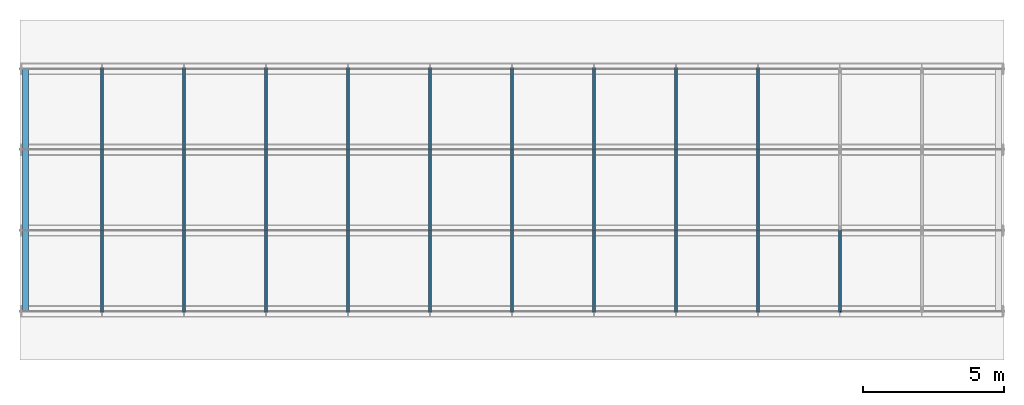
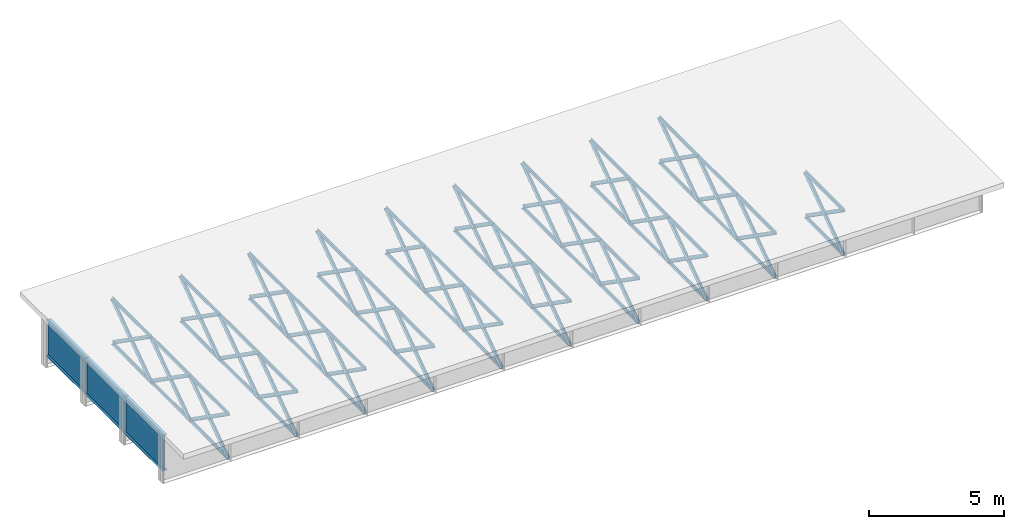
# One storey, part 1 of 13: 115 members.
"""IFC4 building model written with IfcOpenShell, lengths in metres."""

from ifc_helpers import new_model, si_unit, frame, origin, origin_with_axes, origin_2d_with_axis, place, context, subcontext, project, spatial, i_section, l_section, extrude, element, save


model = new_model("IFC4")

# Units and contexts
model_context = context("Model", 3, precision=1e-05, world=origin())
body_context = subcontext(model_context, "Body", "Model", "MODEL_VIEW")
ifc_project = project(units=[si_unit("LENGTHUNIT", "METRE"), si_unit("AREAUNIT", "SQUARE_METRE"), si_unit("VOLUMEUNIT", "CUBIC_METRE"), si_unit("PLANEANGLEUNIT", "RADIAN")], contexts=[model_context])

# Site, building, storey
site_placement = place(None, origin_with_axes())
site = spatial("IfcSite", under=ifc_project, at=site_placement, Name="Default Site")
building_placement = place(site_placement, origin_with_axes())
building = spatial("IfcBuilding", under=site, at=building_placement, Name="Bridge Structure")
storey_placement = place(building_placement, origin_with_axes())
storey = spatial("IfcBuildingStorey", under=building, at=storey_placement, Name="Superstructure")

# Members
for number, where, z_axis, x_axis, name in (
    (1, (0.2, -4.3125, 0.2015), (0.0, 1.0, 0.0), (-1.0, 0.0, 0.0), "End Diaphragm"),
    (2, (0.2, -1.4375, 0.2015), (0.0, 1.0, 0.0), (-1.0, 0.0, 0.0), "End Diaphragm"),
    (3, (0.2, 1.4375, 0.2015), (0.0, 1.0, 0.0), (-1.0, 0.0, 0.0), "End Diaphragm"),
):
    element("IfcMember", number, at=place(storey_placement, frame(where, z_axis=z_axis, x_axis=x_axis)), inside=storey, Name=name, context=body_context, shape_type="SweptSolid", body=[
        extrude(i_section(OverallWidth=0.21, OverallDepth=1.609, WebThickness=0.014, FlangeThickness=0.012, at=origin_2d_with_axis()), origin_with_axes(), (0.0, 0.0, 1.0), 2.875),
    ])
for number, where, z_axis, x_axis, name in (
    (4, (2.9166666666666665, -4.3125, 1.006), (0.0, 0.8192988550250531, -0.5733667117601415), (-1.0, 0.0, 0.0), "Diagonal Brace"),
    (5, (2.9166666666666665, -4.3125, -1.006), (0.0, 0.8192988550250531, 0.5733667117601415), (-1.0, 0.0, 0.0), "Diagonal Brace"),
):
    element("IfcMember", number, at=place(storey_placement, frame(where, z_axis=z_axis, x_axis=x_axis)), inside=storey, Name=name, context=body_context, shape_type="SweptSolid", body=[
        extrude(l_section(Depth=0.15, Width=0.1, Thickness=0.008, at=origin_2d_with_axis()), origin_with_axes(), (0.0, 0.0, 1.0), 3.5090980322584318),
    ])
for number, where, z_axis, x_axis, name in (
    (6, (2.9166666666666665, -4.3125, -1.006), (0.0, 1.0, 0.0), (-1.0, 0.0, 0.0), "Bottom Chord"),
    (7, (2.9166666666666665, -4.3125, 1.006), (0.0, 1.0, 0.0), (-1.0, 0.0, 0.0), "Top Chord"),
):
    element("IfcMember", number, at=place(storey_placement, frame(where, z_axis=z_axis, x_axis=x_axis)), inside=storey, Name=name, context=body_context, shape_type="SweptSolid", body=[
        extrude(l_section(Depth=0.13, Width=0.08, Thickness=0.008, at=origin_2d_with_axis()), origin_with_axes(), (0.0, 0.0, 1.0), 2.875),
    ])
for number, where, z_axis, x_axis, name in (
    (8, (2.9166666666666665, -1.4375, 1.006), (0.0, 0.8192988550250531, -0.5733667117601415), (-1.0, 0.0, 0.0), "Diagonal Brace"),
    (9, (2.9166666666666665, -1.4375, -1.006), (0.0, 0.8192988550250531, 0.5733667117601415), (-1.0, 0.0, 0.0), "Diagonal Brace"),
):
    element("IfcMember", number, at=place(storey_placement, frame(where, z_axis=z_axis, x_axis=x_axis)), inside=storey, Name=name, context=body_context, shape_type="SweptSolid", body=[
        extrude(l_section(Depth=0.15, Width=0.1, Thickness=0.008, at=origin_2d_with_axis()), origin_with_axes(), (0.0, 0.0, 1.0), 3.5090980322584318),
    ])
for number, where, z_axis, x_axis, name in (
    (10, (2.9166666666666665, -1.4375, -1.006), (0.0, 1.0, 0.0), (-1.0, 0.0, 0.0), "Bottom Chord"),
    (11, (2.9166666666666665, -1.4375, 1.006), (0.0, 1.0, 0.0), (-1.0, 0.0, 0.0), "Top Chord"),
):
    element("IfcMember", number, at=place(storey_placement, frame(where, z_axis=z_axis, x_axis=x_axis)), inside=storey, Name=name, context=body_context, shape_type="SweptSolid", body=[
        extrude(l_section(Depth=0.13, Width=0.08, Thickness=0.008, at=origin_2d_with_axis()), origin_with_axes(), (0.0, 0.0, 1.0), 2.875),
    ])
for number, where, z_axis, x_axis, name in (
    (12, (2.9166666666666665, 1.4375, 1.006), (0.0, 0.8192988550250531, -0.5733667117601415), (-1.0, 0.0, 0.0), "Diagonal Brace"),
    (13, (2.9166666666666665, 1.4375, -1.006), (0.0, 0.8192988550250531, 0.5733667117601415), (-1.0, 0.0, 0.0), "Diagonal Brace"),
):
    element("IfcMember", number, at=place(storey_placement, frame(where, z_axis=z_axis, x_axis=x_axis)), inside=storey, Name=name, context=body_context, shape_type="SweptSolid", body=[
        extrude(l_section(Depth=0.15, Width=0.1, Thickness=0.008, at=origin_2d_with_axis()), origin_with_axes(), (0.0, 0.0, 1.0), 3.5090980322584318),
    ])
for number, where, z_axis, x_axis, name in (
    (14, (2.9166666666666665, 1.4375, -1.006), (0.0, 1.0, 0.0), (-1.0, 0.0, 0.0), "Bottom Chord"),
    (15, (2.9166666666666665, 1.4375, 1.006), (0.0, 1.0, 0.0), (-1.0, 0.0, 0.0), "Top Chord"),
):
    element("IfcMember", number, at=place(storey_placement, frame(where, z_axis=z_axis, x_axis=x_axis)), inside=storey, Name=name, context=body_context, shape_type="SweptSolid", body=[
        extrude(l_section(Depth=0.13, Width=0.08, Thickness=0.008, at=origin_2d_with_axis()), origin_with_axes(), (0.0, 0.0, 1.0), 2.875),
    ])
for number, where, z_axis, x_axis, name in (
    (16, (5.833333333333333, -4.3125, 1.006), (0.0, 0.8192988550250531, -0.5733667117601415), (-1.0, 0.0, 0.0), "Diagonal Brace"),
    (17, (5.833333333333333, -4.3125, -1.006), (0.0, 0.8192988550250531, 0.5733667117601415), (-1.0, 0.0, 0.0), "Diagonal Brace"),
):
    element("IfcMember", number, at=place(storey_placement, frame(where, z_axis=z_axis, x_axis=x_axis)), inside=storey, Name=name, context=body_context, shape_type="SweptSolid", body=[
        extrude(l_section(Depth=0.15, Width=0.1, Thickness=0.008, at=origin_2d_with_axis()), origin_with_axes(), (0.0, 0.0, 1.0), 3.5090980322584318),
    ])
for number, where, z_axis, x_axis, name in (
    (18, (5.833333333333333, -4.3125, -1.006), (0.0, 1.0, 0.0), (-1.0, 0.0, 0.0), "Bottom Chord"),
    (19, (5.833333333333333, -4.3125, 1.006), (0.0, 1.0, 0.0), (-1.0, 0.0, 0.0), "Top Chord"),
):
    element("IfcMember", number, at=place(storey_placement, frame(where, z_axis=z_axis, x_axis=x_axis)), inside=storey, Name=name, context=body_context, shape_type="SweptSolid", body=[
        extrude(l_section(Depth=0.13, Width=0.08, Thickness=0.008, at=origin_2d_with_axis()), origin_with_axes(), (0.0, 0.0, 1.0), 2.875),
    ])
for number, where, z_axis, x_axis, name in (
    (20, (5.833333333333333, -1.4375, 1.006), (0.0, 0.8192988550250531, -0.5733667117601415), (-1.0, 0.0, 0.0), "Diagonal Brace"),
    (21, (5.833333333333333, -1.4375, -1.006), (0.0, 0.8192988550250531, 0.5733667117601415), (-1.0, 0.0, 0.0), "Diagonal Brace"),
):
    element("IfcMember", number, at=place(storey_placement, frame(where, z_axis=z_axis, x_axis=x_axis)), inside=storey, Name=name, context=body_context, shape_type="SweptSolid", body=[
        extrude(l_section(Depth=0.15, Width=0.1, Thickness=0.008, at=origin_2d_with_axis()), origin_with_axes(), (0.0, 0.0, 1.0), 3.5090980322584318),
    ])
for number, where, z_axis, x_axis, name in (
    (22, (5.833333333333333, -1.4375, -1.006), (0.0, 1.0, 0.0), (-1.0, 0.0, 0.0), "Bottom Chord"),
    (23, (5.833333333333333, -1.4375, 1.006), (0.0, 1.0, 0.0), (-1.0, 0.0, 0.0), "Top Chord"),
):
    element("IfcMember", number, at=place(storey_placement, frame(where, z_axis=z_axis, x_axis=x_axis)), inside=storey, Name=name, context=body_context, shape_type="SweptSolid", body=[
        extrude(l_section(Depth=0.13, Width=0.08, Thickness=0.008, at=origin_2d_with_axis()), origin_with_axes(), (0.0, 0.0, 1.0), 2.875),
    ])
for number, where, z_axis, x_axis, name in (
    (24, (5.833333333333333, 1.4375, 1.006), (0.0, 0.8192988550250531, -0.5733667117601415), (-1.0, 0.0, 0.0), "Diagonal Brace"),
    (25, (5.833333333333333, 1.4375, -1.006), (0.0, 0.8192988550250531, 0.5733667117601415), (-1.0, 0.0, 0.0), "Diagonal Brace"),
):
    element("IfcMember", number, at=place(storey_placement, frame(where, z_axis=z_axis, x_axis=x_axis)), inside=storey, Name=name, context=body_context, shape_type="SweptSolid", body=[
        extrude(l_section(Depth=0.15, Width=0.1, Thickness=0.008, at=origin_2d_with_axis()), origin_with_axes(), (0.0, 0.0, 1.0), 3.5090980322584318),
    ])
for number, where, z_axis, x_axis, name in (
    (26, (5.833333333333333, 1.4375, -1.006), (0.0, 1.0, 0.0), (-1.0, 0.0, 0.0), "Bottom Chord"),
    (27, (5.833333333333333, 1.4375, 1.006), (0.0, 1.0, 0.0), (-1.0, 0.0, 0.0), "Top Chord"),
):
    element("IfcMember", number, at=place(storey_placement, frame(where, z_axis=z_axis, x_axis=x_axis)), inside=storey, Name=name, context=body_context, shape_type="SweptSolid", body=[
        extrude(l_section(Depth=0.13, Width=0.08, Thickness=0.008, at=origin_2d_with_axis()), origin_with_axes(), (0.0, 0.0, 1.0), 2.875),
    ])
for number, where, z_axis, x_axis, name in (
    (28, (8.75, -4.3125, 1.006), (0.0, 0.8192988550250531, -0.5733667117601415), (-1.0, 0.0, 0.0), "Diagonal Brace"),
    (29, (8.75, -4.3125, -1.006), (0.0, 0.8192988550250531, 0.5733667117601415), (-1.0, 0.0, 0.0), "Diagonal Brace"),
):
    element("IfcMember", number, at=place(storey_placement, frame(where, z_axis=z_axis, x_axis=x_axis)), inside=storey, Name=name, context=body_context, shape_type="SweptSolid", body=[
        extrude(l_section(Depth=0.15, Width=0.1, Thickness=0.008, at=origin_2d_with_axis()), origin_with_axes(), (0.0, 0.0, 1.0), 3.5090980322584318),
    ])
for number, where, z_axis, x_axis, name in (
    (30, (8.75, -4.3125, -1.006), (0.0, 1.0, 0.0), (-1.0, 0.0, 0.0), "Bottom Chord"),
    (31, (8.75, -4.3125, 1.006), (0.0, 1.0, 0.0), (-1.0, 0.0, 0.0), "Top Chord"),
):
    element("IfcMember", number, at=place(storey_placement, frame(where, z_axis=z_axis, x_axis=x_axis)), inside=storey, Name=name, context=body_context, shape_type="SweptSolid", body=[
        extrude(l_section(Depth=0.13, Width=0.08, Thickness=0.008, at=origin_2d_with_axis()), origin_with_axes(), (0.0, 0.0, 1.0), 2.875),
    ])
for number, where, z_axis, x_axis, name in (
    (32, (8.75, -1.4375, 1.006), (0.0, 0.8192988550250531, -0.5733667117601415), (-1.0, 0.0, 0.0), "Diagonal Brace"),
    (33, (8.75, -1.4375, -1.006), (0.0, 0.8192988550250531, 0.5733667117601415), (-1.0, 0.0, 0.0), "Diagonal Brace"),
):
    element("IfcMember", number, at=place(storey_placement, frame(where, z_axis=z_axis, x_axis=x_axis)), inside=storey, Name=name, context=body_context, shape_type="SweptSolid", body=[
        extrude(l_section(Depth=0.15, Width=0.1, Thickness=0.008, at=origin_2d_with_axis()), origin_with_axes(), (0.0, 0.0, 1.0), 3.5090980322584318),
    ])
for number, where, z_axis, x_axis, name in (
    (34, (8.75, -1.4375, -1.006), (0.0, 1.0, 0.0), (-1.0, 0.0, 0.0), "Bottom Chord"),
    (35, (8.75, -1.4375, 1.006), (0.0, 1.0, 0.0), (-1.0, 0.0, 0.0), "Top Chord"),
):
    element("IfcMember", number, at=place(storey_placement, frame(where, z_axis=z_axis, x_axis=x_axis)), inside=storey, Name=name, context=body_context, shape_type="SweptSolid", body=[
        extrude(l_section(Depth=0.13, Width=0.08, Thickness=0.008, at=origin_2d_with_axis()), origin_with_axes(), (0.0, 0.0, 1.0), 2.875),
    ])
for number, where, z_axis, x_axis, name in (
    (36, (8.75, 1.4375, 1.006), (0.0, 0.8192988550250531, -0.5733667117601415), (-1.0, 0.0, 0.0), "Diagonal Brace"),
    (37, (8.75, 1.4375, -1.006), (0.0, 0.8192988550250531, 0.5733667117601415), (-1.0, 0.0, 0.0), "Diagonal Brace"),
):
    element("IfcMember", number, at=place(storey_placement, frame(where, z_axis=z_axis, x_axis=x_axis)), inside=storey, Name=name, context=body_context, shape_type="SweptSolid", body=[
        extrude(l_section(Depth=0.15, Width=0.1, Thickness=0.008, at=origin_2d_with_axis()), origin_with_axes(), (0.0, 0.0, 1.0), 3.5090980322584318),
    ])
for number, where, z_axis, x_axis, name in (
    (38, (8.75, 1.4375, -1.006), (0.0, 1.0, 0.0), (-1.0, 0.0, 0.0), "Bottom Chord"),
    (39, (8.75, 1.4375, 1.006), (0.0, 1.0, 0.0), (-1.0, 0.0, 0.0), "Top Chord"),
):
    element("IfcMember", number, at=place(storey_placement, frame(where, z_axis=z_axis, x_axis=x_axis)), inside=storey, Name=name, context=body_context, shape_type="SweptSolid", body=[
        extrude(l_section(Depth=0.13, Width=0.08, Thickness=0.008, at=origin_2d_with_axis()), origin_with_axes(), (0.0, 0.0, 1.0), 2.875),
    ])
for number, where, z_axis, x_axis, name in (
    (40, (11.666666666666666, -4.3125, 1.006), (0.0, 0.8192988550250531, -0.5733667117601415), (-1.0, 0.0, 0.0), "Diagonal Brace"),
    (41, (11.666666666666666, -4.3125, -1.006), (0.0, 0.8192988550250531, 0.5733667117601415), (-1.0, 0.0, 0.0), "Diagonal Brace"),
):
    element("IfcMember", number, at=place(storey_placement, frame(where, z_axis=z_axis, x_axis=x_axis)), inside=storey, Name=name, context=body_context, shape_type="SweptSolid", body=[
        extrude(l_section(Depth=0.15, Width=0.1, Thickness=0.008, at=origin_2d_with_axis()), origin_with_axes(), (0.0, 0.0, 1.0), 3.5090980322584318),
    ])
for number, where, z_axis, x_axis, name in (
    (42, (11.666666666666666, -4.3125, -1.006), (0.0, 1.0, 0.0), (-1.0, 0.0, 0.0), "Bottom Chord"),
    (43, (11.666666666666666, -4.3125, 1.006), (0.0, 1.0, 0.0), (-1.0, 0.0, 0.0), "Top Chord"),
):
    element("IfcMember", number, at=place(storey_placement, frame(where, z_axis=z_axis, x_axis=x_axis)), inside=storey, Name=name, context=body_context, shape_type="SweptSolid", body=[
        extrude(l_section(Depth=0.13, Width=0.08, Thickness=0.008, at=origin_2d_with_axis()), origin_with_axes(), (0.0, 0.0, 1.0), 2.875),
    ])
for number, where, z_axis, x_axis, name in (
    (44, (11.666666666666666, -1.4375, 1.006), (0.0, 0.8192988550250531, -0.5733667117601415), (-1.0, 0.0, 0.0), "Diagonal Brace"),
    (45, (11.666666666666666, -1.4375, -1.006), (0.0, 0.8192988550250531, 0.5733667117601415), (-1.0, 0.0, 0.0), "Diagonal Brace"),
):
    element("IfcMember", number, at=place(storey_placement, frame(where, z_axis=z_axis, x_axis=x_axis)), inside=storey, Name=name, context=body_context, shape_type="SweptSolid", body=[
        extrude(l_section(Depth=0.15, Width=0.1, Thickness=0.008, at=origin_2d_with_axis()), origin_with_axes(), (0.0, 0.0, 1.0), 3.5090980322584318),
    ])
for number, where, z_axis, x_axis, name in (
    (46, (11.666666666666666, -1.4375, -1.006), (0.0, 1.0, 0.0), (-1.0, 0.0, 0.0), "Bottom Chord"),
    (47, (11.666666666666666, -1.4375, 1.006), (0.0, 1.0, 0.0), (-1.0, 0.0, 0.0), "Top Chord"),
):
    element("IfcMember", number, at=place(storey_placement, frame(where, z_axis=z_axis, x_axis=x_axis)), inside=storey, Name=name, context=body_context, shape_type="SweptSolid", body=[
        extrude(l_section(Depth=0.13, Width=0.08, Thickness=0.008, at=origin_2d_with_axis()), origin_with_axes(), (0.0, 0.0, 1.0), 2.875),
    ])
for number, where, z_axis, x_axis, name in (
    (48, (11.666666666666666, 1.4375, 1.006), (0.0, 0.8192988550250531, -0.5733667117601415), (-1.0, 0.0, 0.0), "Diagonal Brace"),
    (49, (11.666666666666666, 1.4375, -1.006), (0.0, 0.8192988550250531, 0.5733667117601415), (-1.0, 0.0, 0.0), "Diagonal Brace"),
):
    element("IfcMember", number, at=place(storey_placement, frame(where, z_axis=z_axis, x_axis=x_axis)), inside=storey, Name=name, context=body_context, shape_type="SweptSolid", body=[
        extrude(l_section(Depth=0.15, Width=0.1, Thickness=0.008, at=origin_2d_with_axis()), origin_with_axes(), (0.0, 0.0, 1.0), 3.5090980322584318),
    ])
for number, where, z_axis, x_axis, name in (
    (50, (11.666666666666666, 1.4375, -1.006), (0.0, 1.0, 0.0), (-1.0, 0.0, 0.0), "Bottom Chord"),
    (51, (11.666666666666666, 1.4375, 1.006), (0.0, 1.0, 0.0), (-1.0, 0.0, 0.0), "Top Chord"),
):
    element("IfcMember", number, at=place(storey_placement, frame(where, z_axis=z_axis, x_axis=x_axis)), inside=storey, Name=name, context=body_context, shape_type="SweptSolid", body=[
        extrude(l_section(Depth=0.13, Width=0.08, Thickness=0.008, at=origin_2d_with_axis()), origin_with_axes(), (0.0, 0.0, 1.0), 2.875),
    ])
for number, where, z_axis, x_axis, name in (
    (52, (14.583333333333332, -4.3125, 1.006), (0.0, 0.8192988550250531, -0.5733667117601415), (-1.0, 0.0, 0.0), "Diagonal Brace"),
    (53, (14.583333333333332, -4.3125, -1.006), (0.0, 0.8192988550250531, 0.5733667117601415), (-1.0, 0.0, 0.0), "Diagonal Brace"),
):
    element("IfcMember", number, at=place(storey_placement, frame(where, z_axis=z_axis, x_axis=x_axis)), inside=storey, Name=name, context=body_context, shape_type="SweptSolid", body=[
        extrude(l_section(Depth=0.15, Width=0.1, Thickness=0.008, at=origin_2d_with_axis()), origin_with_axes(), (0.0, 0.0, 1.0), 3.5090980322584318),
    ])
for number, where, z_axis, x_axis, name in (
    (54, (14.583333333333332, -4.3125, -1.006), (0.0, 1.0, 0.0), (-1.0, 0.0, 0.0), "Bottom Chord"),
    (55, (14.583333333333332, -4.3125, 1.006), (0.0, 1.0, 0.0), (-1.0, 0.0, 0.0), "Top Chord"),
):
    element("IfcMember", number, at=place(storey_placement, frame(where, z_axis=z_axis, x_axis=x_axis)), inside=storey, Name=name, context=body_context, shape_type="SweptSolid", body=[
        extrude(l_section(Depth=0.13, Width=0.08, Thickness=0.008, at=origin_2d_with_axis()), origin_with_axes(), (0.0, 0.0, 1.0), 2.875),
    ])
for number, where, z_axis, x_axis, name in (
    (56, (14.583333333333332, -1.4375, 1.006), (0.0, 0.8192988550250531, -0.5733667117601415), (-1.0, 0.0, 0.0), "Diagonal Brace"),
    (57, (14.583333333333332, -1.4375, -1.006), (0.0, 0.8192988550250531, 0.5733667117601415), (-1.0, 0.0, 0.0), "Diagonal Brace"),
):
    element("IfcMember", number, at=place(storey_placement, frame(where, z_axis=z_axis, x_axis=x_axis)), inside=storey, Name=name, context=body_context, shape_type="SweptSolid", body=[
        extrude(l_section(Depth=0.15, Width=0.1, Thickness=0.008, at=origin_2d_with_axis()), origin_with_axes(), (0.0, 0.0, 1.0), 3.5090980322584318),
    ])
for number, where, z_axis, x_axis, name in (
    (58, (14.583333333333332, -1.4375, -1.006), (0.0, 1.0, 0.0), (-1.0, 0.0, 0.0), "Bottom Chord"),
    (59, (14.583333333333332, -1.4375, 1.006), (0.0, 1.0, 0.0), (-1.0, 0.0, 0.0), "Top Chord"),
):
    element("IfcMember", number, at=place(storey_placement, frame(where, z_axis=z_axis, x_axis=x_axis)), inside=storey, Name=name, context=body_context, shape_type="SweptSolid", body=[
        extrude(l_section(Depth=0.13, Width=0.08, Thickness=0.008, at=origin_2d_with_axis()), origin_with_axes(), (0.0, 0.0, 1.0), 2.875),
    ])
for number, where, z_axis, x_axis, name in (
    (60, (14.583333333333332, 1.4375, 1.006), (0.0, 0.8192988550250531, -0.5733667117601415), (-1.0, 0.0, 0.0), "Diagonal Brace"),
    (61, (14.583333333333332, 1.4375, -1.006), (0.0, 0.8192988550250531, 0.5733667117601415), (-1.0, 0.0, 0.0), "Diagonal Brace"),
):
    element("IfcMember", number, at=place(storey_placement, frame(where, z_axis=z_axis, x_axis=x_axis)), inside=storey, Name=name, context=body_context, shape_type="SweptSolid", body=[
        extrude(l_section(Depth=0.15, Width=0.1, Thickness=0.008, at=origin_2d_with_axis()), origin_with_axes(), (0.0, 0.0, 1.0), 3.5090980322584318),
    ])
for number, where, z_axis, x_axis, name in (
    (62, (14.583333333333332, 1.4375, -1.006), (0.0, 1.0, 0.0), (-1.0, 0.0, 0.0), "Bottom Chord"),
    (63, (14.583333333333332, 1.4375, 1.006), (0.0, 1.0, 0.0), (-1.0, 0.0, 0.0), "Top Chord"),
):
    element("IfcMember", number, at=place(storey_placement, frame(where, z_axis=z_axis, x_axis=x_axis)), inside=storey, Name=name, context=body_context, shape_type="SweptSolid", body=[
        extrude(l_section(Depth=0.13, Width=0.08, Thickness=0.008, at=origin_2d_with_axis()), origin_with_axes(), (0.0, 0.0, 1.0), 2.875),
    ])
for number, where, z_axis, x_axis, name in (
    (64, (17.5, -4.3125, 1.006), (0.0, 0.8192988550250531, -0.5733667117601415), (-1.0, 0.0, 0.0), "Diagonal Brace"),
    (65, (17.5, -4.3125, -1.006), (0.0, 0.8192988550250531, 0.5733667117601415), (-1.0, 0.0, 0.0), "Diagonal Brace"),
):
    element("IfcMember", number, at=place(storey_placement, frame(where, z_axis=z_axis, x_axis=x_axis)), inside=storey, Name=name, context=body_context, shape_type="SweptSolid", body=[
        extrude(l_section(Depth=0.15, Width=0.1, Thickness=0.008, at=origin_2d_with_axis()), origin_with_axes(), (0.0, 0.0, 1.0), 3.5090980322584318),
    ])
for number, where, z_axis, x_axis, name in (
    (66, (17.5, -4.3125, -1.006), (0.0, 1.0, 0.0), (-1.0, 0.0, 0.0), "Bottom Chord"),
    (67, (17.5, -4.3125, 1.006), (0.0, 1.0, 0.0), (-1.0, 0.0, 0.0), "Top Chord"),
):
    element("IfcMember", number, at=place(storey_placement, frame(where, z_axis=z_axis, x_axis=x_axis)), inside=storey, Name=name, context=body_context, shape_type="SweptSolid", body=[
        extrude(l_section(Depth=0.13, Width=0.08, Thickness=0.008, at=origin_2d_with_axis()), origin_with_axes(), (0.0, 0.0, 1.0), 2.875),
    ])
for number, where, z_axis, x_axis, name in (
    (68, (17.5, -1.4375, 1.006), (0.0, 0.8192988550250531, -0.5733667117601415), (-1.0, 0.0, 0.0), "Diagonal Brace"),
    (69, (17.5, -1.4375, -1.006), (0.0, 0.8192988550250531, 0.5733667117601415), (-1.0, 0.0, 0.0), "Diagonal Brace"),
):
    element("IfcMember", number, at=place(storey_placement, frame(where, z_axis=z_axis, x_axis=x_axis)), inside=storey, Name=name, context=body_context, shape_type="SweptSolid", body=[
        extrude(l_section(Depth=0.15, Width=0.1, Thickness=0.008, at=origin_2d_with_axis()), origin_with_axes(), (0.0, 0.0, 1.0), 3.5090980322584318),
    ])
for number, where, z_axis, x_axis, name in (
    (70, (17.5, -1.4375, -1.006), (0.0, 1.0, 0.0), (-1.0, 0.0, 0.0), "Bottom Chord"),
    (71, (17.5, -1.4375, 1.006), (0.0, 1.0, 0.0), (-1.0, 0.0, 0.0), "Top Chord"),
):
    element("IfcMember", number, at=place(storey_placement, frame(where, z_axis=z_axis, x_axis=x_axis)), inside=storey, Name=name, context=body_context, shape_type="SweptSolid", body=[
        extrude(l_section(Depth=0.13, Width=0.08, Thickness=0.008, at=origin_2d_with_axis()), origin_with_axes(), (0.0, 0.0, 1.0), 2.875),
    ])
for number, where, z_axis, x_axis, name in (
    (72, (17.5, 1.4375, 1.006), (0.0, 0.8192988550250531, -0.5733667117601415), (-1.0, 0.0, 0.0), "Diagonal Brace"),
    (73, (17.5, 1.4375, -1.006), (0.0, 0.8192988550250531, 0.5733667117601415), (-1.0, 0.0, 0.0), "Diagonal Brace"),
):
    element("IfcMember", number, at=place(storey_placement, frame(where, z_axis=z_axis, x_axis=x_axis)), inside=storey, Name=name, context=body_context, shape_type="SweptSolid", body=[
        extrude(l_section(Depth=0.15, Width=0.1, Thickness=0.008, at=origin_2d_with_axis()), origin_with_axes(), (0.0, 0.0, 1.0), 3.5090980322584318),
    ])
for number, where, z_axis, x_axis, name in (
    (74, (17.5, 1.4375, -1.006), (0.0, 1.0, 0.0), (-1.0, 0.0, 0.0), "Bottom Chord"),
    (75, (17.5, 1.4375, 1.006), (0.0, 1.0, 0.0), (-1.0, 0.0, 0.0), "Top Chord"),
):
    element("IfcMember", number, at=place(storey_placement, frame(where, z_axis=z_axis, x_axis=x_axis)), inside=storey, Name=name, context=body_context, shape_type="SweptSolid", body=[
        extrude(l_section(Depth=0.13, Width=0.08, Thickness=0.008, at=origin_2d_with_axis()), origin_with_axes(), (0.0, 0.0, 1.0), 2.875),
    ])
for number, where, z_axis, x_axis, name in (
    (76, (20.416666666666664, -4.3125, 1.006), (0.0, 0.8192988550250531, -0.5733667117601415), (-1.0, 0.0, 0.0), "Diagonal Brace"),
    (77, (20.416666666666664, -4.3125, -1.006), (0.0, 0.8192988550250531, 0.5733667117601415), (-1.0, 0.0, 0.0), "Diagonal Brace"),
):
    element("IfcMember", number, at=place(storey_placement, frame(where, z_axis=z_axis, x_axis=x_axis)), inside=storey, Name=name, context=body_context, shape_type="SweptSolid", body=[
        extrude(l_section(Depth=0.15, Width=0.1, Thickness=0.008, at=origin_2d_with_axis()), origin_with_axes(), (0.0, 0.0, 1.0), 3.5090980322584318),
    ])
for number, where, z_axis, x_axis, name in (
    (78, (20.416666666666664, -4.3125, -1.006), (0.0, 1.0, 0.0), (-1.0, 0.0, 0.0), "Bottom Chord"),
    (79, (20.416666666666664, -4.3125, 1.006), (0.0, 1.0, 0.0), (-1.0, 0.0, 0.0), "Top Chord"),
):
    element("IfcMember", number, at=place(storey_placement, frame(where, z_axis=z_axis, x_axis=x_axis)), inside=storey, Name=name, context=body_context, shape_type="SweptSolid", body=[
        extrude(l_section(Depth=0.13, Width=0.08, Thickness=0.008, at=origin_2d_with_axis()), origin_with_axes(), (0.0, 0.0, 1.0), 2.875),
    ])
for number, where, z_axis, x_axis, name in (
    (80, (20.416666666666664, -1.4375, 1.006), (0.0, 0.8192988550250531, -0.5733667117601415), (-1.0, 0.0, 0.0), "Diagonal Brace"),
    (81, (20.416666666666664, -1.4375, -1.006), (0.0, 0.8192988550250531, 0.5733667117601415), (-1.0, 0.0, 0.0), "Diagonal Brace"),
):
    element("IfcMember", number, at=place(storey_placement, frame(where, z_axis=z_axis, x_axis=x_axis)), inside=storey, Name=name, context=body_context, shape_type="SweptSolid", body=[
        extrude(l_section(Depth=0.15, Width=0.1, Thickness=0.008, at=origin_2d_with_axis()), origin_with_axes(), (0.0, 0.0, 1.0), 3.5090980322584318),
    ])
for number, where, z_axis, x_axis, name in (
    (82, (20.416666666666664, -1.4375, -1.006), (0.0, 1.0, 0.0), (-1.0, 0.0, 0.0), "Bottom Chord"),
    (83, (20.416666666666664, -1.4375, 1.006), (0.0, 1.0, 0.0), (-1.0, 0.0, 0.0), "Top Chord"),
):
    element("IfcMember", number, at=place(storey_placement, frame(where, z_axis=z_axis, x_axis=x_axis)), inside=storey, Name=name, context=body_context, shape_type="SweptSolid", body=[
        extrude(l_section(Depth=0.13, Width=0.08, Thickness=0.008, at=origin_2d_with_axis()), origin_with_axes(), (0.0, 0.0, 1.0), 2.875),
    ])
for number, where, z_axis, x_axis, name in (
    (84, (20.416666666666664, 1.4375, 1.006), (0.0, 0.8192988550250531, -0.5733667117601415), (-1.0, 0.0, 0.0), "Diagonal Brace"),
    (85, (20.416666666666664, 1.4375, -1.006), (0.0, 0.8192988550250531, 0.5733667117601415), (-1.0, 0.0, 0.0), "Diagonal Brace"),
):
    element("IfcMember", number, at=place(storey_placement, frame(where, z_axis=z_axis, x_axis=x_axis)), inside=storey, Name=name, context=body_context, shape_type="SweptSolid", body=[
        extrude(l_section(Depth=0.15, Width=0.1, Thickness=0.008, at=origin_2d_with_axis()), origin_with_axes(), (0.0, 0.0, 1.0), 3.5090980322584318),
    ])
for number, where, z_axis, x_axis, name in (
    (86, (20.416666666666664, 1.4375, -1.006), (0.0, 1.0, 0.0), (-1.0, 0.0, 0.0), "Bottom Chord"),
    (87, (20.416666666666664, 1.4375, 1.006), (0.0, 1.0, 0.0), (-1.0, 0.0, 0.0), "Top Chord"),
):
    element("IfcMember", number, at=place(storey_placement, frame(where, z_axis=z_axis, x_axis=x_axis)), inside=storey, Name=name, context=body_context, shape_type="SweptSolid", body=[
        extrude(l_section(Depth=0.13, Width=0.08, Thickness=0.008, at=origin_2d_with_axis()), origin_with_axes(), (0.0, 0.0, 1.0), 2.875),
    ])
for number, where, z_axis, x_axis, name in (
    (88, (23.333333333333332, -4.3125, 1.006), (0.0, 0.8192988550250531, -0.5733667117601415), (-1.0, 0.0, 0.0), "Diagonal Brace"),
    (89, (23.333333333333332, -4.3125, -1.006), (0.0, 0.8192988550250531, 0.5733667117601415), (-1.0, 0.0, 0.0), "Diagonal Brace"),
):
    element("IfcMember", number, at=place(storey_placement, frame(where, z_axis=z_axis, x_axis=x_axis)), inside=storey, Name=name, context=body_context, shape_type="SweptSolid", body=[
        extrude(l_section(Depth=0.15, Width=0.1, Thickness=0.008, at=origin_2d_with_axis()), origin_with_axes(), (0.0, 0.0, 1.0), 3.5090980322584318),
    ])
for number, where, z_axis, x_axis, name in (
    (90, (23.333333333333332, -4.3125, -1.006), (0.0, 1.0, 0.0), (-1.0, 0.0, 0.0), "Bottom Chord"),
    (91, (23.333333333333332, -4.3125, 1.006), (0.0, 1.0, 0.0), (-1.0, 0.0, 0.0), "Top Chord"),
):
    element("IfcMember", number, at=place(storey_placement, frame(where, z_axis=z_axis, x_axis=x_axis)), inside=storey, Name=name, context=body_context, shape_type="SweptSolid", body=[
        extrude(l_section(Depth=0.13, Width=0.08, Thickness=0.008, at=origin_2d_with_axis()), origin_with_axes(), (0.0, 0.0, 1.0), 2.875),
    ])
for number, where, z_axis, x_axis, name in (
    (92, (23.333333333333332, -1.4375, 1.006), (0.0, 0.8192988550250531, -0.5733667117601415), (-1.0, 0.0, 0.0), "Diagonal Brace"),
    (93, (23.333333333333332, -1.4375, -1.006), (0.0, 0.8192988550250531, 0.5733667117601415), (-1.0, 0.0, 0.0), "Diagonal Brace"),
):
    element("IfcMember", number, at=place(storey_placement, frame(where, z_axis=z_axis, x_axis=x_axis)), inside=storey, Name=name, context=body_context, shape_type="SweptSolid", body=[
        extrude(l_section(Depth=0.15, Width=0.1, Thickness=0.008, at=origin_2d_with_axis()), origin_with_axes(), (0.0, 0.0, 1.0), 3.5090980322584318),
    ])
for number, where, z_axis, x_axis, name in (
    (94, (23.333333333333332, -1.4375, -1.006), (0.0, 1.0, 0.0), (-1.0, 0.0, 0.0), "Bottom Chord"),
    (95, (23.333333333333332, -1.4375, 1.006), (0.0, 1.0, 0.0), (-1.0, 0.0, 0.0), "Top Chord"),
):
    element("IfcMember", number, at=place(storey_placement, frame(where, z_axis=z_axis, x_axis=x_axis)), inside=storey, Name=name, context=body_context, shape_type="SweptSolid", body=[
        extrude(l_section(Depth=0.13, Width=0.08, Thickness=0.008, at=origin_2d_with_axis()), origin_with_axes(), (0.0, 0.0, 1.0), 2.875),
    ])
for number, where, z_axis, x_axis, name in (
    (96, (23.333333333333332, 1.4375, 1.006), (0.0, 0.8192988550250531, -0.5733667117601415), (-1.0, 0.0, 0.0), "Diagonal Brace"),
    (97, (23.333333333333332, 1.4375, -1.006), (0.0, 0.8192988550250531, 0.5733667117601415), (-1.0, 0.0, 0.0), "Diagonal Brace"),
):
    element("IfcMember", number, at=place(storey_placement, frame(where, z_axis=z_axis, x_axis=x_axis)), inside=storey, Name=name, context=body_context, shape_type="SweptSolid", body=[
        extrude(l_section(Depth=0.15, Width=0.1, Thickness=0.008, at=origin_2d_with_axis()), origin_with_axes(), (0.0, 0.0, 1.0), 3.5090980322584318),
    ])
for number, where, z_axis, x_axis, name in (
    (98, (23.333333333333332, 1.4375, -1.006), (0.0, 1.0, 0.0), (-1.0, 0.0, 0.0), "Bottom Chord"),
    (99, (23.333333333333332, 1.4375, 1.006), (0.0, 1.0, 0.0), (-1.0, 0.0, 0.0), "Top Chord"),
):
    element("IfcMember", number, at=place(storey_placement, frame(where, z_axis=z_axis, x_axis=x_axis)), inside=storey, Name=name, context=body_context, shape_type="SweptSolid", body=[
        extrude(l_section(Depth=0.13, Width=0.08, Thickness=0.008, at=origin_2d_with_axis()), origin_with_axes(), (0.0, 0.0, 1.0), 2.875),
    ])
for number, where, z_axis, x_axis, name in (
    (100, (26.25, -4.3125, 1.006), (0.0, 0.8192988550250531, -0.5733667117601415), (-1.0, 0.0, 0.0), "Diagonal Brace"),
    (101, (26.25, -4.3125, -1.006), (0.0, 0.8192988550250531, 0.5733667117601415), (-1.0, 0.0, 0.0), "Diagonal Brace"),
):
    element("IfcMember", number, at=place(storey_placement, frame(where, z_axis=z_axis, x_axis=x_axis)), inside=storey, Name=name, context=body_context, shape_type="SweptSolid", body=[
        extrude(l_section(Depth=0.15, Width=0.1, Thickness=0.008, at=origin_2d_with_axis()), origin_with_axes(), (0.0, 0.0, 1.0), 3.5090980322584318),
    ])
for number, where, z_axis, x_axis, name in (
    (102, (26.25, -4.3125, -1.006), (0.0, 1.0, 0.0), (-1.0, 0.0, 0.0), "Bottom Chord"),
    (103, (26.25, -4.3125, 1.006), (0.0, 1.0, 0.0), (-1.0, 0.0, 0.0), "Top Chord"),
):
    element("IfcMember", number, at=place(storey_placement, frame(where, z_axis=z_axis, x_axis=x_axis)), inside=storey, Name=name, context=body_context, shape_type="SweptSolid", body=[
        extrude(l_section(Depth=0.13, Width=0.08, Thickness=0.008, at=origin_2d_with_axis()), origin_with_axes(), (0.0, 0.0, 1.0), 2.875),
    ])
for number, where, z_axis, x_axis, name in (
    (104, (26.25, -1.4375, 1.006), (0.0, 0.8192988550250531, -0.5733667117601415), (-1.0, 0.0, 0.0), "Diagonal Brace"),
    (105, (26.25, -1.4375, -1.006), (0.0, 0.8192988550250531, 0.5733667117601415), (-1.0, 0.0, 0.0), "Diagonal Brace"),
):
    element("IfcMember", number, at=place(storey_placement, frame(where, z_axis=z_axis, x_axis=x_axis)), inside=storey, Name=name, context=body_context, shape_type="SweptSolid", body=[
        extrude(l_section(Depth=0.15, Width=0.1, Thickness=0.008, at=origin_2d_with_axis()), origin_with_axes(), (0.0, 0.0, 1.0), 3.5090980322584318),
    ])
for number, where, z_axis, x_axis, name in (
    (106, (26.25, -1.4375, -1.006), (0.0, 1.0, 0.0), (-1.0, 0.0, 0.0), "Bottom Chord"),
    (107, (26.25, -1.4375, 1.006), (0.0, 1.0, 0.0), (-1.0, 0.0, 0.0), "Top Chord"),
):
    element("IfcMember", number, at=place(storey_placement, frame(where, z_axis=z_axis, x_axis=x_axis)), inside=storey, Name=name, context=body_context, shape_type="SweptSolid", body=[
        extrude(l_section(Depth=0.13, Width=0.08, Thickness=0.008, at=origin_2d_with_axis()), origin_with_axes(), (0.0, 0.0, 1.0), 2.875),
    ])
for number, where, z_axis, x_axis, name in (
    (108, (26.25, 1.4375, 1.006), (0.0, 0.8192988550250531, -0.5733667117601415), (-1.0, 0.0, 0.0), "Diagonal Brace"),
    (109, (26.25, 1.4375, -1.006), (0.0, 0.8192988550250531, 0.5733667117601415), (-1.0, 0.0, 0.0), "Diagonal Brace"),
):
    element("IfcMember", number, at=place(storey_placement, frame(where, z_axis=z_axis, x_axis=x_axis)), inside=storey, Name=name, context=body_context, shape_type="SweptSolid", body=[
        extrude(l_section(Depth=0.15, Width=0.1, Thickness=0.008, at=origin_2d_with_axis()), origin_with_axes(), (0.0, 0.0, 1.0), 3.5090980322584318),
    ])
for number, where, z_axis, x_axis, name in (
    (110, (26.25, 1.4375, -1.006), (0.0, 1.0, 0.0), (-1.0, 0.0, 0.0), "Bottom Chord"),
    (111, (26.25, 1.4375, 1.006), (0.0, 1.0, 0.0), (-1.0, 0.0, 0.0), "Top Chord"),
):
    element("IfcMember", number, at=place(storey_placement, frame(where, z_axis=z_axis, x_axis=x_axis)), inside=storey, Name=name, context=body_context, shape_type="SweptSolid", body=[
        extrude(l_section(Depth=0.13, Width=0.08, Thickness=0.008, at=origin_2d_with_axis()), origin_with_axes(), (0.0, 0.0, 1.0), 2.875),
    ])
for number, where, z_axis, x_axis, name in (
    (112, (29.166666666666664, -4.3125, 1.006), (0.0, 0.8192988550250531, -0.5733667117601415), (-1.0, 0.0, 0.0), "Diagonal Brace"),
    (113, (29.166666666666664, -4.3125, -1.006), (0.0, 0.8192988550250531, 0.5733667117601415), (-1.0, 0.0, 0.0), "Diagonal Brace"),
):
    element("IfcMember", number, at=place(storey_placement, frame(where, z_axis=z_axis, x_axis=x_axis)), inside=storey, Name=name, context=body_context, shape_type="SweptSolid", body=[
        extrude(l_section(Depth=0.15, Width=0.1, Thickness=0.008, at=origin_2d_with_axis()), origin_with_axes(), (0.0, 0.0, 1.0), 3.5090980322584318),
    ])
for number, where, z_axis, x_axis, name in (
    (114, (29.166666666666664, -4.3125, -1.006), (0.0, 1.0, 0.0), (-1.0, 0.0, 0.0), "Bottom Chord"),
    (115, (29.166666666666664, -4.3125, 1.006), (0.0, 1.0, 0.0), (-1.0, 0.0, 0.0), "Top Chord"),
):
    element("IfcMember", number, at=place(storey_placement, frame(where, z_axis=z_axis, x_axis=x_axis)), inside=storey, Name=name, context=body_context, shape_type="SweptSolid", body=[
        extrude(l_section(Depth=0.13, Width=0.08, Thickness=0.008, at=origin_2d_with_axis()), origin_with_axes(), (0.0, 0.0, 1.0), 2.875),
    ])

save(model, "model.ifc")
